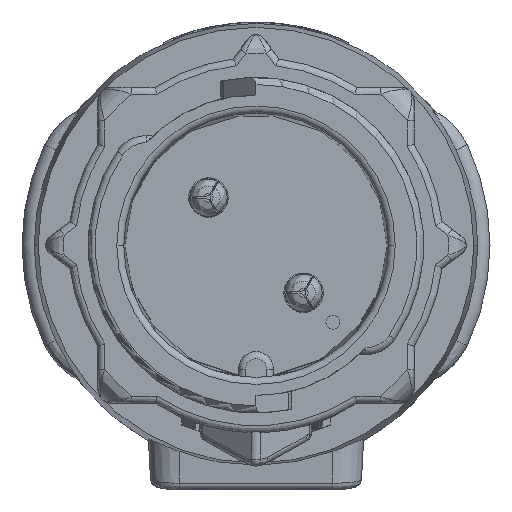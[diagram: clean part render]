
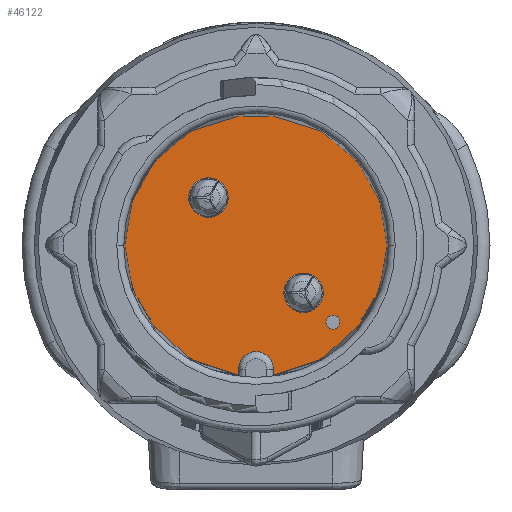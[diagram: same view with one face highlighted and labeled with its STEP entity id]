
A CAD part, left-side view. The second image highlights one B-rep face of the part: STEP entity #46122.
In plain terms, the highlighted planar face has unit normal (-1, 0, 0).
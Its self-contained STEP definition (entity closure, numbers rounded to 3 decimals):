
#14802=CARTESIAN_POINT('',(8.8,0.,0.));
#14803=DIRECTION('',(-1.,0.,0.));
#14804=DIRECTION('',(0.,-0.816,-0.579));
#14805=AXIS2_PLACEMENT_3D('',#14802,#14803,#14804);
#14807=DIRECTION('',(0.,-0.866,-0.5));
#14808=VECTOR('',#14807,0.096);
#14809=CARTESIAN_POINT('',(8.8,-4.514,-3.202));
#14810=LINE('',#14809,#14808);
#14811=CARTESIAN_POINT('',(8.8,0.,0.));
#14812=DIRECTION('',(-1.,0.,0.));
#14813=DIRECTION('',(0.,-0.133,-0.991));
#14814=AXIS2_PLACEMENT_3D('',#14811,#14812,#14813);
#14816=DIRECTION('',(0.,0.,1.));
#14817=VECTOR('',#14816,0.26);
#14818=CARTESIAN_POINT('',(8.8,-0.75,-5.58));
#14819=LINE('',#14818,#14817);
#14820=CARTESIAN_POINT('',(8.8,0.,-5.32));
#14821=DIRECTION('',(-1.,0.,0.));
#14822=DIRECTION('',(0.,-1.,0.));
#14823=AXIS2_PLACEMENT_3D('',#14820,#14821,#14822);
#14825=DIRECTION('',(0.,0.,-1.));
#14826=VECTOR('',#14825,0.26);
#14827=CARTESIAN_POINT('',(8.8,0.75,-5.32));
#14828=LINE('',#14827,#14826);
#14829=CARTESIAN_POINT('',(8.8,0.,0.));
#14830=DIRECTION('',(-1.,0.,0.));
#14831=DIRECTION('',(0.,0.817,-0.577));
#14832=AXIS2_PLACEMENT_3D('',#14829,#14830,#14831);
#14834=DIRECTION('',(0.,-0.866,0.5));
#14835=VECTOR('',#14834,0.096);
#14836=CARTESIAN_POINT('',(8.8,4.597,-3.25));
#14837=LINE('',#14836,#14835);
#14838=CARTESIAN_POINT('',(8.8,0.,0.));
#14839=DIRECTION('',(-1.,0.,0.));
#14840=DIRECTION('',(0.,0.909,-0.417));
#14841=AXIS2_PLACEMENT_3D('',#14838,#14839,#14840);
#14843=DIRECTION('',(0.,0.866,-0.5));
#14844=VECTOR('',#14843,0.096);
#14845=CARTESIAN_POINT('',(8.8,5.03,-2.308));
#14846=LINE('',#14845,#14844);
#14847=CARTESIAN_POINT('',(8.8,0.,0.));
#14848=DIRECTION('',(-1.,0.,0.));
#14849=DIRECTION('',(0.,1.,0.));
#14850=AXIS2_PLACEMENT_3D('',#14847,#14848,#14849);
#14852=CARTESIAN_POINT('',(8.8,0.,0.));
#14853=DIRECTION('',(-1.,0.,0.));
#14854=DIRECTION('',(0.,0.092,0.996));
#14855=AXIS2_PLACEMENT_3D('',#14852,#14853,#14854);
#14857=DIRECTION('',(0.,0.,-1.));
#14858=VECTOR('',#14857,0.096);
#14859=CARTESIAN_POINT('',(8.8,0.516,5.606));
#14860=LINE('',#14859,#14858);
#14861=CARTESIAN_POINT('',(8.8,0.,0.));
#14862=DIRECTION('',(-1.,0.,0.));
#14863=DIRECTION('',(0.,-0.093,0.996));
#14864=AXIS2_PLACEMENT_3D('',#14861,#14862,#14863);
#14866=DIRECTION('',(0.,0.,-1.));
#14867=VECTOR('',#14866,0.096);
#14868=CARTESIAN_POINT('',(8.8,-0.516,5.606));
#14869=LINE('',#14868,#14867);
#14870=CARTESIAN_POINT('',(8.8,0.,0.));
#14871=DIRECTION('',(-1.,0.,0.));
#14872=DIRECTION('',(0.,-1.,0.));
#14873=AXIS2_PLACEMENT_3D('',#14870,#14871,#14872);
#14875=CARTESIAN_POINT('',(8.8,0.,0.));
#14876=DIRECTION('',(-1.,0.,0.));
#14877=DIRECTION('',(0.,-0.908,-0.419));
#14878=AXIS2_PLACEMENT_3D('',#14875,#14876,#14877);
#14880=DIRECTION('',(0.,0.866,0.5));
#14881=VECTOR('',#14880,0.096);
#14882=CARTESIAN_POINT('',(8.8,-5.113,-2.357));
#14883=LINE('',#14882,#14881);
#14884=CARTESIAN_POINT('',(8.8,-2.044,-2.044));
#14885=DIRECTION('',(1.,0.,0.));
#14886=DIRECTION('',(0.,0.707,0.707));
#14887=AXIS2_PLACEMENT_3D('',#14884,#14885,#14886);
#14889=CARTESIAN_POINT('',(8.8,-2.044,-2.044));
#14890=DIRECTION('',(1.,0.,0.));
#14891=DIRECTION('',(0.,-0.707,-0.707));
#14892=AXIS2_PLACEMENT_3D('',#14889,#14890,#14891);
#14894=CARTESIAN_POINT('',(8.8,2.044,2.044));
#14895=DIRECTION('',(1.,0.,0.));
#14896=DIRECTION('',(0.,0.707,0.707));
#14897=AXIS2_PLACEMENT_3D('',#14894,#14895,#14896);
#14899=CARTESIAN_POINT('',(8.8,2.044,2.044));
#14900=DIRECTION('',(1.,0.,0.));
#14901=DIRECTION('',(0.,-0.707,-0.707));
#14902=AXIS2_PLACEMENT_3D('',#14899,#14900,#14901);
#14904=CARTESIAN_POINT('',(8.8,-3.3,-3.3));
#14905=DIRECTION('',(-1.,0.,0.));
#14906=DIRECTION('',(0.,1.,0.));
#14907=AXIS2_PLACEMENT_3D('',#14904,#14905,#14906);
#14909=CARTESIAN_POINT('',(8.8,-3.3,-3.3));
#14910=DIRECTION('',(-1.,0.,0.));
#14911=DIRECTION('',(0.,-1.,0.));
#14912=AXIS2_PLACEMENT_3D('',#14909,#14910,#14911);
#23905=CARTESIAN_POINT('',(8.8,-0.75,-5.32));
#23906=CARTESIAN_POINT('',(8.8,0.75,-5.32));
#23907=VERTEX_POINT('',#23905);
#23908=VERTEX_POINT('',#23906);
#23909=CARTESIAN_POINT('',(8.8,0.75,-5.58));
#23910=VERTEX_POINT('',#23909);
#23911=CARTESIAN_POINT('',(8.8,-0.75,-5.58));
#23912=VERTEX_POINT('',#23911);
#23917=CARTESIAN_POINT('',(8.8,5.63,0.));
#23918=VERTEX_POINT('',#23917);
#23919=CARTESIAN_POINT('',(8.8,-5.63,0.));
#23920=VERTEX_POINT('',#23919);
#24562=CARTESIAN_POINT('',(8.8,-0.516,5.606));
#24563=VERTEX_POINT('',#24562);
#24564=CARTESIAN_POINT('',(8.8,-0.516,5.51));
#24565=CARTESIAN_POINT('',(8.8,0.516,5.51));
#24566=VERTEX_POINT('',#24564);
#24567=VERTEX_POINT('',#24565);
#24568=CARTESIAN_POINT('',(8.8,0.516,5.606));
#24569=VERTEX_POINT('',#24568);
#24570=CARTESIAN_POINT('',(8.8,5.03,-2.308));
#24571=CARTESIAN_POINT('',(8.8,4.514,-3.202));
#24572=VERTEX_POINT('',#24570);
#24573=VERTEX_POINT('',#24571);
#24574=CARTESIAN_POINT('',(8.8,5.113,-2.357));
#24575=VERTEX_POINT('',#24574);
#24576=CARTESIAN_POINT('',(8.8,4.597,-3.25));
#24577=VERTEX_POINT('',#24576);
#24578=CARTESIAN_POINT('',(8.8,-4.514,-3.202));
#24579=CARTESIAN_POINT('',(8.8,-5.03,-2.308));
#24580=VERTEX_POINT('',#24578);
#24581=VERTEX_POINT('',#24579);
#24582=CARTESIAN_POINT('',(8.8,-4.597,-3.25));
#24583=VERTEX_POINT('',#24582);
#24584=CARTESIAN_POINT('',(8.8,-5.113,-2.357));
#24585=VERTEX_POINT('',#24584);
#24605=CARTESIAN_POINT('',(8.8,-1.442,-1.442));
#24606=CARTESIAN_POINT('',(8.8,-2.645,-2.645));
#24607=VERTEX_POINT('',#24605);
#24608=VERTEX_POINT('',#24606);
#24609=CARTESIAN_POINT('',(8.8,2.645,2.645));
#24610=CARTESIAN_POINT('',(8.8,1.442,1.442));
#24611=VERTEX_POINT('',#24609);
#24612=VERTEX_POINT('',#24610);
#24617=CARTESIAN_POINT('',(8.8,-3.,-3.3));
#24618=CARTESIAN_POINT('',(8.8,-3.6,-3.3));
#24619=VERTEX_POINT('',#24617);
#24620=VERTEX_POINT('',#24618);
#46066=CARTESIAN_POINT('',(8.8,0.,0.));
#46067=DIRECTION('',(-1.,0.,0.));
#46068=DIRECTION('',(0.,1.,0.));
#46069=AXIS2_PLACEMENT_3D('',#46066,#46067,#46068);
#46070=PLANE('',#46069);
#46072=ORIENTED_EDGE('',*,*,#46071,.F.);
#46073=ORIENTED_EDGE('',*,*,#46059,.T.);
#46074=ORIENTED_EDGE('',*,*,#46014,.F.);
#46076=ORIENTED_EDGE('',*,*,#46075,.T.);
#46078=ORIENTED_EDGE('',*,*,#46077,.T.);
#46080=ORIENTED_EDGE('',*,*,#46079,.T.);
#46081=ORIENTED_EDGE('',*,*,#46002,.F.);
#46083=ORIENTED_EDGE('',*,*,#46082,.T.);
#46085=ORIENTED_EDGE('',*,*,#46084,.F.);
#46087=ORIENTED_EDGE('',*,*,#46086,.T.);
#46088=ORIENTED_EDGE('',*,*,#45994,.F.);
#46090=ORIENTED_EDGE('',*,*,#46089,.F.);
#46092=ORIENTED_EDGE('',*,*,#46091,.T.);
#46094=ORIENTED_EDGE('',*,*,#46093,.F.);
#46096=ORIENTED_EDGE('',*,*,#46095,.F.);
#46098=ORIENTED_EDGE('',*,*,#46097,.F.);
#46099=ORIENTED_EDGE('',*,*,#45987,.F.);
#46101=ORIENTED_EDGE('',*,*,#46100,.T.);
#46102=EDGE_LOOP('',(#46072,#46073,#46074,#46076,#46078,#46080,#46081,#46083,
#46085,#46087,#46088,#46090,#46092,#46094,#46096,#46098,#46099,#46101));
#46103=FACE_OUTER_BOUND('',#46102,.F.);
#46105=ORIENTED_EDGE('',*,*,#46104,.F.);
#46107=ORIENTED_EDGE('',*,*,#46106,.F.);
#46108=EDGE_LOOP('',(#46105,#46107));
#46109=FACE_BOUND('',#46108,.F.);
#46111=ORIENTED_EDGE('',*,*,#46110,.F.);
#46113=ORIENTED_EDGE('',*,*,#46112,.F.);
#46114=EDGE_LOOP('',(#46111,#46113));
#46115=FACE_BOUND('',#46114,.F.);
#46117=ORIENTED_EDGE('',*,*,#46116,.T.);
#46119=ORIENTED_EDGE('',*,*,#46118,.T.);
#46120=EDGE_LOOP('',(#46117,#46119));
#46121=FACE_BOUND('',#46120,.F.);
#46122=ADVANCED_FACE('',(#46103,#46109,#46115,#46121),#46070,.T.);
#14806=CIRCLE('',#14805,5.534);
#14815=CIRCLE('',#14814,5.63);
#14824=CIRCLE('',#14823,0.75);
#14833=CIRCLE('',#14832,5.63);
#14842=CIRCLE('',#14841,5.534);
#14851=CIRCLE('',#14850,5.63);
#14856=CIRCLE('',#14855,5.63);
#14865=CIRCLE('',#14864,5.534);
#14874=CIRCLE('',#14873,5.63);
#14879=CIRCLE('',#14878,5.63);
#14888=CIRCLE('',#14887,0.85);
#14893=CIRCLE('',#14892,0.85);
#14898=CIRCLE('',#14897,0.85);
#14903=CIRCLE('',#14902,0.85);
#14908=CIRCLE('',#14907,0.3);
#14913=CIRCLE('',#14912,0.3);
#45987=EDGE_CURVE('',#24585,#23920,#14879,.T.);
#45994=EDGE_CURVE('',#23918,#24575,#14851,.T.);
#46002=EDGE_CURVE('',#24577,#23910,#14833,.T.);
#46014=EDGE_CURVE('',#23912,#24583,#14815,.T.);
#46059=EDGE_CURVE('',#24580,#24583,#14810,.T.);
#46071=EDGE_CURVE('',#24580,#24581,#14806,.T.);
#46075=EDGE_CURVE('',#23912,#23907,#14819,.T.);
#46077=EDGE_CURVE('',#23907,#23908,#14824,.T.);
#46079=EDGE_CURVE('',#23908,#23910,#14828,.T.);
#46082=EDGE_CURVE('',#24577,#24573,#14837,.T.);
#46084=EDGE_CURVE('',#24572,#24573,#14842,.T.);
#46086=EDGE_CURVE('',#24572,#24575,#14846,.T.);
#46089=EDGE_CURVE('',#24569,#23918,#14856,.T.);
#46091=EDGE_CURVE('',#24569,#24567,#14860,.T.);
#46093=EDGE_CURVE('',#24566,#24567,#14865,.T.);
#46095=EDGE_CURVE('',#24563,#24566,#14869,.T.);
#46097=EDGE_CURVE('',#23920,#24563,#14874,.T.);
#46100=EDGE_CURVE('',#24585,#24581,#14883,.T.);
#46104=EDGE_CURVE('',#24607,#24608,#14888,.T.);
#46106=EDGE_CURVE('',#24608,#24607,#14893,.T.);
#46110=EDGE_CURVE('',#24611,#24612,#14898,.T.);
#46112=EDGE_CURVE('',#24612,#24611,#14903,.T.);
#46116=EDGE_CURVE('',#24619,#24620,#14908,.T.);
#46118=EDGE_CURVE('',#24620,#24619,#14913,.T.);
